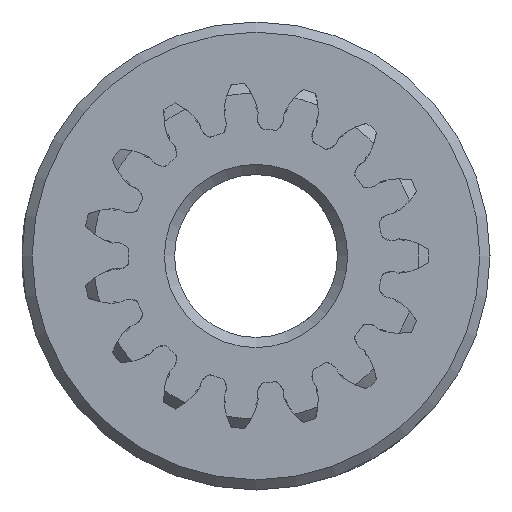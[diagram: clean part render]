
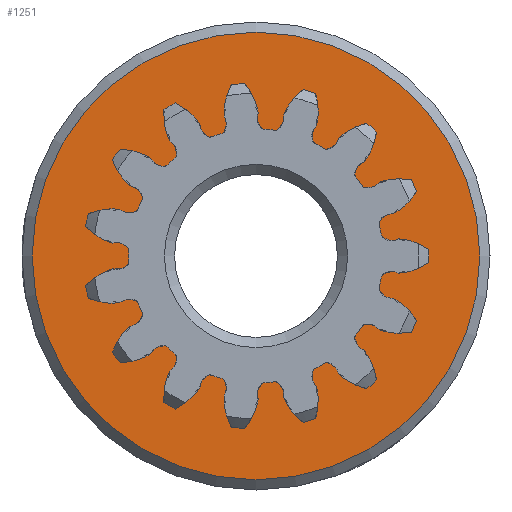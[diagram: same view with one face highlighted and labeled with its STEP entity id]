
A CAD part, left-side view. The second image highlights one B-rep face of the part: STEP entity #1251.
In plain terms, the highlighted planar face has unit normal (-1, 0, 0).
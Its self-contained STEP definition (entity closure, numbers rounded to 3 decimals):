
#1251=ADVANCED_FACE('',(#2218,#2220),#2222,.T.);
#2218=FACE_BOUND('',#2219,.T.);
#2219=EDGE_LOOP('',(#3751));
#2220=FACE_BOUND('',#2221,.T.);
#2221=EDGE_LOOP('',(#3752));
#2222=PLANE('',#2223);
#2223=AXIS2_PLACEMENT_3D('',#2224,#2225,#2226);
#2224=CARTESIAN_POINT('',(15.,0.,0.));
#2225=DIRECTION('',(-1.,0.,-0.));
#2226=DIRECTION('',(0.,0.,-1.));
#3751=ORIENTED_EDGE('',*,*,#4144,.T.);
#3752=ORIENTED_EDGE('',*,*,#4140,.T.);
#4140=EDGE_CURVE('',#4777,#4777,#4778,.T.);
#4144=EDGE_CURVE('',#4785,#4785,#4786,.F.);
#4777=VERTEX_POINT('',#7300);
#4778=CIRCLE('',#7301,6.);
#4785=VERTEX_POINT('',#7486);
#4786=CIRCLE('',#7487,11.);
#7300=CARTESIAN_POINT('',(15.,0.,6.));
#7301=AXIS2_PLACEMENT_3D('',#7302,#7303,#7304);
#7302=CARTESIAN_POINT('',(15.,0.,0.));
#7303=DIRECTION('',(1.,-0.,0.));
#7304=DIRECTION('',(0.,-0.,1.));
#7486=CARTESIAN_POINT('',(15.,0.,11.));
#7487=AXIS2_PLACEMENT_3D('',#7488,#7489,#7490);
#7488=CARTESIAN_POINT('',(15.,0.,0.));
#7489=DIRECTION('',(1.,-0.,0.));
#7490=DIRECTION('',(0.,0.,1.));
